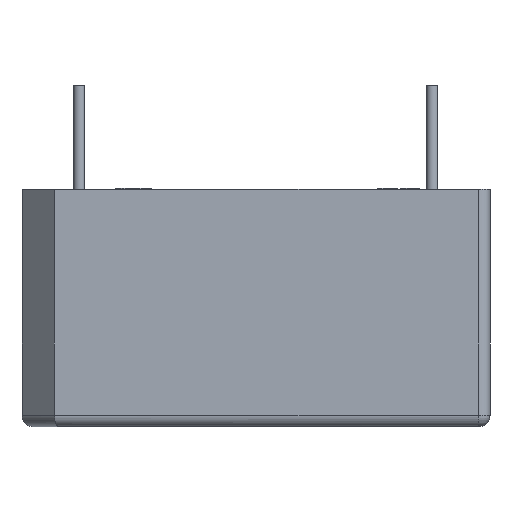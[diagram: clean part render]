
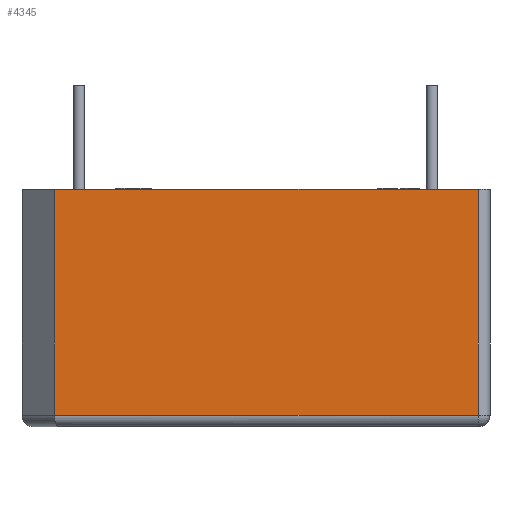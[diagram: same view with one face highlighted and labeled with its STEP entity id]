
A CAD part, left-side view. The second image highlights one B-rep face of the part: STEP entity #4345.
In plain terms, the highlighted planar face has unit normal (-1, 0, 0).
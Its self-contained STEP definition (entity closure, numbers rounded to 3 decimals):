
#235=LINE('',#6141,#626);
#252=LINE('',#6189,#643);
#255=LINE('',#6195,#646);
#276=LINE('',#6241,#667);
#626=VECTOR('',#5072,18.3);
#643=VECTOR('',#5123,9.75);
#646=VECTOR('',#5128,18.3);
#667=VECTOR('',#5187,9.75);
#1009=PLANE('',#4649);
#1300=FACE_OUTER_BOUND('',#1582,.T.);
#1582=EDGE_LOOP('',(#3286,#3287,#3288,#3289));
#2067=VERTEX_POINT('',#6138);
#2068=VERTEX_POINT('',#6140);
#2077=VERTEX_POINT('',#6166);
#2084=VERTEX_POINT('',#6194);
#2506=EDGE_CURVE('',#2068,#2067,#235,.T.);
#2533=EDGE_CURVE('',#2068,#2077,#252,.T.);
#2536=EDGE_CURVE('',#2077,#2084,#255,.T.);
#2559=EDGE_CURVE('',#2084,#2067,#276,.T.);
#3286=ORIENTED_EDGE('',*,*,#2533,.F.);
#3287=ORIENTED_EDGE('',*,*,#2506,.T.);
#3288=ORIENTED_EDGE('',*,*,#2559,.F.);
#3289=ORIENTED_EDGE('',*,*,#2536,.F.);
#4345=ADVANCED_FACE('',(#1300),#1009,.T.);
#4649=AXIS2_PLACEMENT_3D('',#6242,#5188,#5189);
#5072=DIRECTION('',(0.,1.,0.));
#5123=DIRECTION('',(0.,0.,-1.));
#5128=DIRECTION('',(0.,1.,0.));
#5187=DIRECTION('',(0.,0.,1.));
#5188=DIRECTION('center_axis',(-1.,0.,0.));
#5189=DIRECTION('ref_axis',(0.,0.,1.));
#6138=CARTESIAN_POINT('',(-15.84,8.7,10.25));
#6140=CARTESIAN_POINT('',(-15.84,-9.6,10.25));
#6141=CARTESIAN_POINT('',(-15.84,10.1,10.25));
#6166=CARTESIAN_POINT('',(-15.84,-9.6,0.5));
#6189=CARTESIAN_POINT('',(-15.84,-9.6,0.));
#6194=CARTESIAN_POINT('',(-15.84,8.7,0.5));
#6195=CARTESIAN_POINT('',(-15.84,-5.05,0.5));
#6241=CARTESIAN_POINT('',(-15.84,8.7,0.));
#6242=CARTESIAN_POINT('Origin',(-15.84,-10.1,0.));
